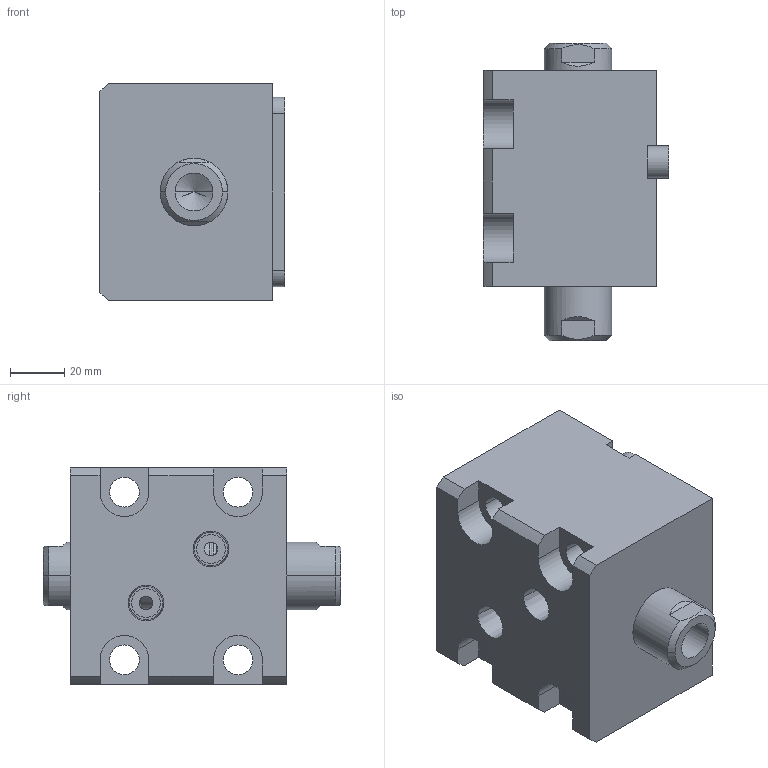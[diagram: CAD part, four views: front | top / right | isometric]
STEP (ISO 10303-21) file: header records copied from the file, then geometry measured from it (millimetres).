
FILE_DESCRIPTION (( 'STEP AP214' ), '1' );
FILE_NAME ('chtb-lw40x10n_asm.STEP', '2018-06-05T00:33:49', ( 'Windows' ), ( 'Microsoft' ), 'SwSTEP 2.0', 'SolidWorks 2015', '' );
FILE_SCHEMA (( 'AUTOMOTIVE_DESIGN' ));
Length unit declared in the file: millimetre
Products named in the file (5): CHTB-SW40X10NHSG; CHTB-SD40QG; CHTB-LW40X10NBT; CHTB-LA40PJ; chtb-lw40x10n_asm
Assembly tree (4 placements, depth 2):
  chtb-lw40x10n_asm
    CHTB-LA40PJ
    CHTB-LW40X10NBT
    CHTB-SD40QG
    CHTB-SW40X10NHSG
Bounding box: 68.5 x 110 x 80 mm (x, y, z)
Volume: 373316.2 mm3; surface area: 78012.5 mm2
Topology: 4 solids, 4 shells, 172 faces, 462 edges, 304 vertices
Faces by surface type: cylinder 77, plane 52, cone 17, bspline 14, torus 12
Entity records: 10654 total; most frequent: CARTESIAN_POINT 6188, ORIENTED_EDGE 904, DIRECTION 853, EDGE_CURVE 452, AXIS2_PLACEMENT_3D 340, VERTEX_POINT 304, EDGE_LOOP 204, CIRCLE 175
